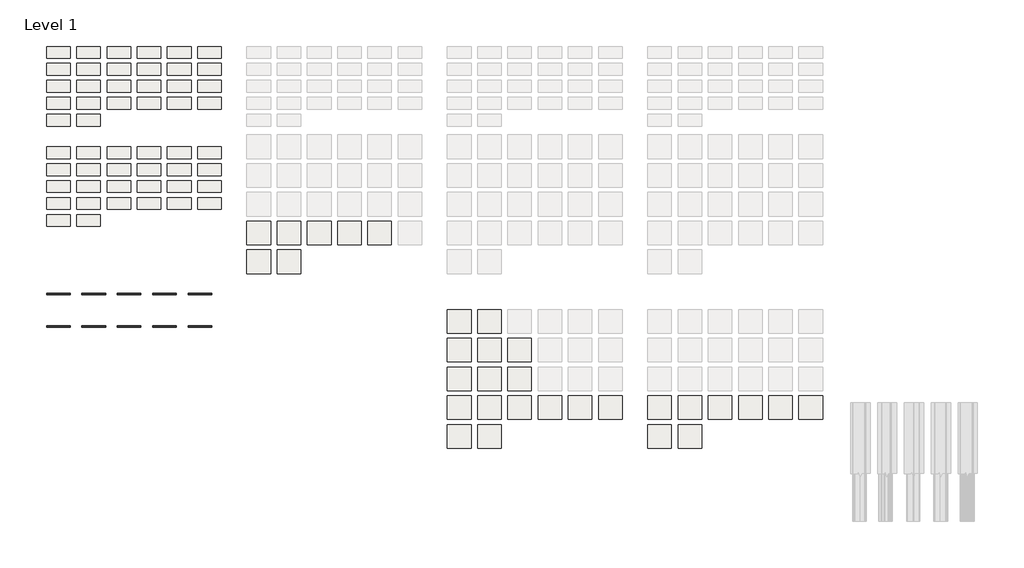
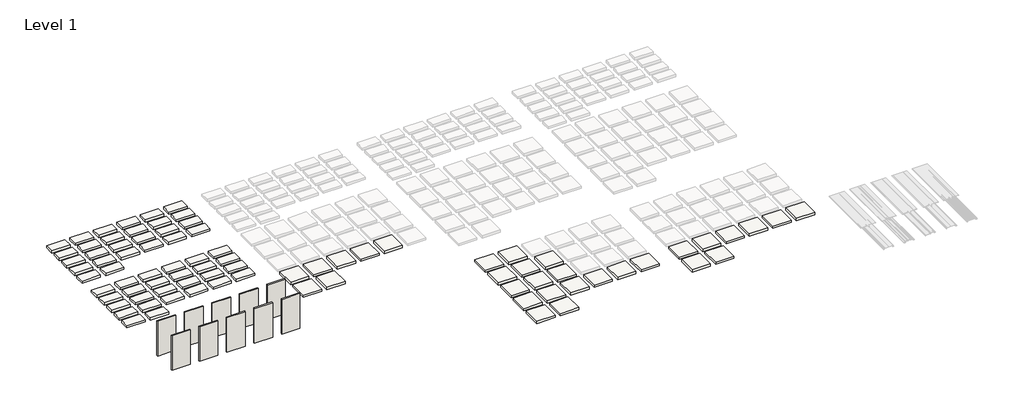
# One storey, part 1 of 3: 83 slabs, 10 walls.
"""IFC4 building model written with IfcOpenShell, lengths in millimetres."""

from ifc_helpers import new_model, si_unit, frame, origin, place, context, project, spatial, polyline, outline, extrude, element, save

model = new_model("IFC4")

# Units and contexts
model_context = context("Model", 3, world=origin())
ifc_project = project(units=[si_unit("LENGTHUNIT", "METRE", prefix="MILLI")], contexts=[model_context])

# Site, building, storey
site = spatial("IfcSite", under=ifc_project)
building = spatial("IfcBuilding", under=site)
storey = spatial("IfcBuildingStorey", under=building, Name="Level 1", Elevation=19.05)

# Slabs
placement = place(None, origin())
element("IfcSlab", 1, ObjectType="AEP Span Material Sample", at=placement, inside=storey, context=model_context, shape_type="SweptSolid", body=[
    extrude(outline(polyline([(-4322.6576517, 8327.6021167), (-4932.2576517, 8327.6021167), (-4932.2576517, 8632.4021167), (-4322.6576517, 8632.4021167), (-4322.6576517, 8327.6021167)])), frame((0.0, 0.0, -60.325), z_axis=(0.0, 0.0, 1.0), x_axis=(1.0, 0.0, 0.0)), (0.0, 0.0, 1.0), 79.375),
])
element("IfcSlab", 2, ObjectType="AEP Span Material Sample", at=placement, inside=storey, context=model_context, shape_type="SweptSolid", body=[
    extrude(outline(polyline([(-3541.6076517, 8327.6021167), (-4151.2076517, 8327.6021167), (-4151.2076517, 8632.4021167), (-3541.6076517, 8632.4021167), (-3541.6076517, 8327.6021167)])), frame((0.0, 0.0, -60.325), z_axis=(0.0, 0.0, 1.0), x_axis=(1.0, 0.0, 0.0)), (0.0, 0.0, 1.0), 79.375),
])
element("IfcSlab", 3, ObjectType="AEP Span Material Sample", at=placement, inside=storey, context=model_context, shape_type="SweptSolid", body=[
    extrude(outline(polyline([(-2760.5576517, 8327.6021167), (-3370.1576517, 8327.6021167), (-3370.1576517, 8632.4021167), (-2760.5576517, 8632.4021167), (-2760.5576517, 8327.6021167)])), frame((0.0, 0.0, -60.325), z_axis=(0.0, 0.0, 1.0), x_axis=(1.0, 0.0, 0.0)), (0.0, 0.0, 1.0), 79.375),
])
element("IfcSlab", 4, ObjectType="AEP Span Material Sample", at=placement, inside=storey, context=model_context, shape_type="SweptSolid", body=[
    extrude(outline(polyline([(-1979.5076517, 8327.6021167), (-2589.1076517, 8327.6021167), (-2589.1076517, 8632.4021167), (-1979.5076517, 8632.4021167), (-1979.5076517, 8327.6021167)])), frame((0.0, 0.0, -60.325), z_axis=(0.0, 0.0, 1.0), x_axis=(1.0, 0.0, 0.0)), (0.0, 0.0, 1.0), 79.375),
])
element("IfcSlab", 5, ObjectType="AEP Span Material Sample", at=placement, inside=storey, context=model_context, shape_type="SweptSolid", body=[
    extrude(outline(polyline([(-1198.4576517, 8327.6021167), (-1808.0576517, 8327.6021167), (-1808.0576517, 8632.4021167), (-1198.4576517, 8632.4021167), (-1198.4576517, 8327.6021167)])), frame((0.0, 0.0, -60.325), z_axis=(0.0, 0.0, 1.0), x_axis=(1.0, 0.0, 0.0)), (0.0, 0.0, 1.0), 79.375),
])
element("IfcSlab", 6, ObjectType="AEP Span Material Sample", at=placement, inside=storey, context=model_context, shape_type="SweptSolid", body=[
    extrude(outline(polyline([(-417.4076517, 8327.6021167), (-1027.0076517, 8327.6021167), (-1027.0076517, 8632.4021167), (-417.4076517, 8632.4021167), (-417.4076517, 8327.6021167)])), frame((0.0, 0.0, -60.325), z_axis=(0.0, 0.0, 1.0), x_axis=(1.0, 0.0, 0.0)), (0.0, 0.0, 1.0), 79.375),
])
element("IfcSlab", 7, ObjectType="AEP Span Material Sample", at=placement, inside=storey, context=model_context, shape_type="SweptSolid", body=[
    extrude(outline(polyline([(-4322.6576517, 7889.4521167), (-4932.2576517, 7889.4521167), (-4932.2576517, 8194.2521167), (-4322.6576517, 8194.2521167), (-4322.6576517, 7889.4521167)])), frame((0.0, 0.0, -60.325), z_axis=(0.0, 0.0, 1.0), x_axis=(1.0, 0.0, 0.0)), (0.0, 0.0, 1.0), 79.375),
])
element("IfcSlab", 8, ObjectType="AEP Span Material Sample", at=placement, inside=storey, context=model_context, shape_type="SweptSolid", body=[
    extrude(outline(polyline([(-3541.6076517, 7889.4521167), (-4151.2076517, 7889.4521167), (-4151.2076517, 8194.2521167), (-3541.6076517, 8194.2521167), (-3541.6076517, 7889.4521167)])), frame((0.0, 0.0, -60.325), z_axis=(0.0, 0.0, 1.0), x_axis=(1.0, 0.0, 0.0)), (0.0, 0.0, 1.0), 79.375),
])
element("IfcSlab", 9, ObjectType="AEP Span Material Sample", at=placement, inside=storey, context=model_context, shape_type="SweptSolid", body=[
    extrude(outline(polyline([(-2760.5576517, 7889.4521167), (-3370.1576517, 7889.4521167), (-3370.1576517, 8194.2521167), (-2760.5576517, 8194.2521167), (-2760.5576517, 7889.4521167)])), frame((0.0, 0.0, -60.325), z_axis=(0.0, 0.0, 1.0), x_axis=(1.0, 0.0, 0.0)), (0.0, 0.0, 1.0), 79.375),
])
element("IfcSlab", 10, ObjectType="AEP Span Material Sample", at=placement, inside=storey, context=model_context, shape_type="SweptSolid", body=[
    extrude(outline(polyline([(-1979.5076517, 7889.4521167), (-2589.1076517, 7889.4521167), (-2589.1076517, 8194.2521167), (-1979.5076517, 8194.2521167), (-1979.5076517, 7889.4521167)])), frame((0.0, 0.0, -60.325), z_axis=(0.0, 0.0, 1.0), x_axis=(1.0, 0.0, 0.0)), (0.0, 0.0, 1.0), 79.375),
])
element("IfcSlab", 11, ObjectType="AEP Span Material Sample", at=placement, inside=storey, context=model_context, shape_type="SweptSolid", body=[
    extrude(outline(polyline([(-1198.4576517, 7889.4521167), (-1808.0576517, 7889.4521167), (-1808.0576517, 8194.2521167), (-1198.4576517, 8194.2521167), (-1198.4576517, 7889.4521167)])), frame((0.0, 0.0, -60.325), z_axis=(0.0, 0.0, 1.0), x_axis=(1.0, 0.0, 0.0)), (0.0, 0.0, 1.0), 79.375),
])
element("IfcSlab", 12, ObjectType="AEP Span Material Sample", at=placement, inside=storey, context=model_context, shape_type="SweptSolid", body=[
    extrude(outline(polyline([(-417.4076517, 7889.4521167), (-1027.0076517, 7889.4521167), (-1027.0076517, 8194.2521167), (-417.4076517, 8194.2521167), (-417.4076517, 7889.4521167)])), frame((0.0, 0.0, -60.325), z_axis=(0.0, 0.0, 1.0), x_axis=(1.0, 0.0, 0.0)), (0.0, 0.0, 1.0), 79.375),
])
element("IfcSlab", 13, ObjectType="AEP Span Material Sample", at=placement, inside=storey, context=model_context, shape_type="SweptSolid", body=[
    extrude(outline(polyline([(-4322.6576517, 7451.3021167), (-4932.2576517, 7451.3021167), (-4932.2576517, 7756.1021167), (-4322.6576517, 7756.1021167), (-4322.6576517, 7451.3021167)])), frame((0.0, 0.0, -60.325), z_axis=(0.0, 0.0, 1.0), x_axis=(1.0, 0.0, 0.0)), (0.0, 0.0, 1.0), 79.375),
])
element("IfcSlab", 14, ObjectType="AEP Span Material Sample", at=placement, inside=storey, context=model_context, shape_type="SweptSolid", body=[
    extrude(outline(polyline([(-3541.6076517, 7451.3021167), (-4151.2076517, 7451.3021167), (-4151.2076517, 7756.1021167), (-3541.6076517, 7756.1021167), (-3541.6076517, 7451.3021167)])), frame((0.0, 0.0, -60.325), z_axis=(0.0, 0.0, 1.0), x_axis=(1.0, 0.0, 0.0)), (0.0, 0.0, 1.0), 79.375),
])
element("IfcSlab", 15, ObjectType="AEP Span Material Sample", at=placement, inside=storey, context=model_context, shape_type="SweptSolid", body=[
    extrude(outline(polyline([(-2760.5576517, 7451.3021167), (-3370.1576517, 7451.3021167), (-3370.1576517, 7756.1021167), (-2760.5576517, 7756.1021167), (-2760.5576517, 7451.3021167)])), frame((0.0, 0.0, -60.325), z_axis=(0.0, 0.0, 1.0), x_axis=(1.0, 0.0, 0.0)), (0.0, 0.0, 1.0), 79.375),
])
element("IfcSlab", 16, ObjectType="AEP Span Material Sample", at=placement, inside=storey, context=model_context, shape_type="SweptSolid", body=[
    extrude(outline(polyline([(-1979.5076517, 7451.3021167), (-2589.1076517, 7451.3021167), (-2589.1076517, 7756.1021167), (-1979.5076517, 7756.1021167), (-1979.5076517, 7451.3021167)])), frame((0.0, 0.0, -60.325), z_axis=(0.0, 0.0, 1.0), x_axis=(1.0, 0.0, 0.0)), (0.0, 0.0, 1.0), 79.375),
])
element("IfcSlab", 17, ObjectType="AEP Span Material Sample", at=placement, inside=storey, context=model_context, shape_type="SweptSolid", body=[
    extrude(outline(polyline([(-1198.4576517, 7451.3021167), (-1808.0576517, 7451.3021167), (-1808.0576517, 7756.1021167), (-1198.4576517, 7756.1021167), (-1198.4576517, 7451.3021167)])), frame((0.0, 0.0, -60.325), z_axis=(0.0, 0.0, 1.0), x_axis=(1.0, 0.0, 0.0)), (0.0, 0.0, 1.0), 79.375),
])
element("IfcSlab", 18, ObjectType="AEP Span Material Sample", at=placement, inside=storey, context=model_context, shape_type="SweptSolid", body=[
    extrude(outline(polyline([(-417.4076517, 7451.3021167), (-1027.0076517, 7451.3021167), (-1027.0076517, 7756.1021167), (-417.4076517, 7756.1021167), (-417.4076517, 7451.3021167)])), frame((0.0, 0.0, -60.325), z_axis=(0.0, 0.0, 1.0), x_axis=(1.0, 0.0, 0.0)), (0.0, 0.0, 1.0), 79.375),
])
element("IfcSlab", 19, ObjectType="AEP Span Material Sample", at=placement, inside=storey, context=model_context, shape_type="SweptSolid", body=[
    extrude(outline(polyline([(-4322.6576517, 7013.1521167), (-4932.2576517, 7013.1521167), (-4932.2576517, 7317.9521167), (-4322.6576517, 7317.9521167), (-4322.6576517, 7013.1521167)])), frame((0.0, 0.0, -60.325), z_axis=(0.0, 0.0, 1.0), x_axis=(1.0, 0.0, 0.0)), (0.0, 0.0, 1.0), 79.375),
])
element("IfcSlab", 20, ObjectType="AEP Span Material Sample", at=placement, inside=storey, context=model_context, shape_type="SweptSolid", body=[
    extrude(outline(polyline([(-3541.6076517, 7013.1521167), (-4151.2076517, 7013.1521167), (-4151.2076517, 7317.9521167), (-3541.6076517, 7317.9521167), (-3541.6076517, 7013.1521167)])), frame((0.0, 0.0, -60.325), z_axis=(0.0, 0.0, 1.0), x_axis=(1.0, 0.0, 0.0)), (0.0, 0.0, 1.0), 79.375),
])
element("IfcSlab", 21, ObjectType="AEP Span Material Sample", at=placement, inside=storey, context=model_context, shape_type="SweptSolid", body=[
    extrude(outline(polyline([(-2760.5576517, 7013.1521167), (-3370.1576517, 7013.1521167), (-3370.1576517, 7317.9521167), (-2760.5576517, 7317.9521167), (-2760.5576517, 7013.1521167)])), frame((0.0, 0.0, -60.325), z_axis=(0.0, 0.0, 1.0), x_axis=(1.0, 0.0, 0.0)), (0.0, 0.0, 1.0), 79.375),
])
element("IfcSlab", 22, ObjectType="AEP Span Material Sample", at=placement, inside=storey, context=model_context, shape_type="SweptSolid", body=[
    extrude(outline(polyline([(-1979.5076517, 7013.1521167), (-2589.1076517, 7013.1521167), (-2589.1076517, 7317.9521167), (-1979.5076517, 7317.9521167), (-1979.5076517, 7013.1521167)])), frame((0.0, 0.0, -60.325), z_axis=(0.0, 0.0, 1.0), x_axis=(1.0, 0.0, 0.0)), (0.0, 0.0, 1.0), 79.375),
])
element("IfcSlab", 23, ObjectType="AEP Span Material Sample", at=placement, inside=storey, context=model_context, shape_type="SweptSolid", body=[
    extrude(outline(polyline([(-1198.4576517, 7013.1521167), (-1808.0576517, 7013.1521167), (-1808.0576517, 7317.9521167), (-1198.4576517, 7317.9521167), (-1198.4576517, 7013.1521167)])), frame((0.0, 0.0, -60.325), z_axis=(0.0, 0.0, 1.0), x_axis=(1.0, 0.0, 0.0)), (0.0, 0.0, 1.0), 79.375),
])
element("IfcSlab", 24, ObjectType="AEP Span Material Sample", at=placement, inside=storey, context=model_context, shape_type="SweptSolid", body=[
    extrude(outline(polyline([(-417.4076517, 7013.1521167), (-1027.0076517, 7013.1521167), (-1027.0076517, 7317.9521167), (-417.4076517, 7317.9521167), (-417.4076517, 7013.1521167)])), frame((0.0, 0.0, -60.325), z_axis=(0.0, 0.0, 1.0), x_axis=(1.0, 0.0, 0.0)), (0.0, 0.0, 1.0), 79.375),
])
element("IfcSlab", 25, ObjectType="AEP Span Material Sample", at=placement, inside=storey, context=model_context, shape_type="SweptSolid", body=[
    extrude(outline(polyline([(-4322.6576517, 6575.0021167), (-4932.2576517, 6575.0021167), (-4932.2576517, 6879.8021167), (-4322.6576517, 6879.8021167), (-4322.6576517, 6575.0021167)])), frame((0.0, 0.0, -60.325), z_axis=(0.0, 0.0, 1.0), x_axis=(1.0, 0.0, 0.0)), (0.0, 0.0, 1.0), 79.375),
])
element("IfcSlab", 26, ObjectType="AEP Span Material Sample", at=placement, inside=storey, context=model_context, shape_type="SweptSolid", body=[
    extrude(outline(polyline([(-3541.6076517, 6575.0021167), (-4151.2076517, 6575.0021167), (-4151.2076517, 6879.8021167), (-3541.6076517, 6879.8021167), (-3541.6076517, 6575.0021167)])), frame((0.0, 0.0, -60.325), z_axis=(0.0, 0.0, 1.0), x_axis=(1.0, 0.0, 0.0)), (0.0, 0.0, 1.0), 79.375),
])
element("IfcSlab", 27, ObjectType="AEP Span Material Sample", at=placement, inside=storey, context=model_context, shape_type="SweptSolid", body=[
    extrude(outline(polyline([(-4322.6576517, 5736.8021167), (-4932.2576517, 5736.8021167), (-4932.2576517, 6041.6021167), (-4322.6576517, 6041.6021167), (-4322.6576517, 5736.8021167)])), frame((0.0, 0.0, -60.325), z_axis=(0.0, 0.0, 1.0), x_axis=(1.0, 0.0, 0.0)), (0.0, 0.0, 1.0), 79.375),
])
element("IfcSlab", 28, ObjectType="AEP Span Material Sample", at=placement, inside=storey, context=model_context, shape_type="SweptSolid", body=[
    extrude(outline(polyline([(-3541.6076517, 5736.8021167), (-4151.2076517, 5736.8021167), (-4151.2076517, 6041.6021167), (-3541.6076517, 6041.6021167), (-3541.6076517, 5736.8021167)])), frame((0.0, 0.0, -60.325), z_axis=(0.0, 0.0, 1.0), x_axis=(1.0, 0.0, 0.0)), (0.0, 0.0, 1.0), 79.375),
])
element("IfcSlab", 29, ObjectType="AEP Span Material Sample", at=placement, inside=storey, context=model_context, shape_type="SweptSolid", body=[
    extrude(outline(polyline([(-2760.5576517, 5736.8021167), (-3370.1576517, 5736.8021167), (-3370.1576517, 6041.6021167), (-2760.5576517, 6041.6021167), (-2760.5576517, 5736.8021167)])), frame((0.0, 0.0, -60.325), z_axis=(0.0, 0.0, 1.0), x_axis=(1.0, 0.0, 0.0)), (0.0, 0.0, 1.0), 79.375),
])
element("IfcSlab", 30, ObjectType="AEP Span Material Sample", at=placement, inside=storey, context=model_context, shape_type="SweptSolid", body=[
    extrude(outline(polyline([(-1979.5076517, 5736.8021167), (-2589.1076517, 5736.8021167), (-2589.1076517, 6041.6021167), (-1979.5076517, 6041.6021167), (-1979.5076517, 5736.8021167)])), frame((0.0, 0.0, -60.325), z_axis=(0.0, 0.0, 1.0), x_axis=(1.0, 0.0, 0.0)), (0.0, 0.0, 1.0), 79.375),
])
element("IfcSlab", 31, ObjectType="AEP Span Material Sample", at=placement, inside=storey, context=model_context, shape_type="SweptSolid", body=[
    extrude(outline(polyline([(-1198.4576517, 5736.8021167), (-1808.0576517, 5736.8021167), (-1808.0576517, 6041.6021167), (-1198.4576517, 6041.6021167), (-1198.4576517, 5736.8021167)])), frame((0.0, 0.0, -60.325), z_axis=(0.0, 0.0, 1.0), x_axis=(1.0, 0.0, 0.0)), (0.0, 0.0, 1.0), 79.375),
])
element("IfcSlab", 32, ObjectType="AEP Span Material Sample", at=placement, inside=storey, context=model_context, shape_type="SweptSolid", body=[
    extrude(outline(polyline([(-417.4076517, 5736.8021167), (-1027.0076517, 5736.8021167), (-1027.0076517, 6041.6021167), (-417.4076517, 6041.6021167), (-417.4076517, 5736.8021167)])), frame((0.0, 0.0, -60.325), z_axis=(0.0, 0.0, 1.0), x_axis=(1.0, 0.0, 0.0)), (0.0, 0.0, 1.0), 79.375),
])
element("IfcSlab", 33, ObjectType="AEP Span Material Sample", at=placement, inside=storey, context=model_context, shape_type="SweptSolid", body=[
    extrude(outline(polyline([(-4322.6576517, 5298.6521167), (-4932.2576517, 5298.6521167), (-4932.2576517, 5603.4521167), (-4322.6576517, 5603.4521167), (-4322.6576517, 5298.6521167)])), frame((0.0, 0.0, -60.325), z_axis=(0.0, 0.0, 1.0), x_axis=(1.0, 0.0, 0.0)), (0.0, 0.0, 1.0), 79.375),
])
element("IfcSlab", 34, ObjectType="AEP Span Material Sample", at=placement, inside=storey, context=model_context, shape_type="SweptSolid", body=[
    extrude(outline(polyline([(-3541.6076517, 5298.6521167), (-4151.2076517, 5298.6521167), (-4151.2076517, 5603.4521167), (-3541.6076517, 5603.4521167), (-3541.6076517, 5298.6521167)])), frame((0.0, 0.0, -60.325), z_axis=(0.0, 0.0, 1.0), x_axis=(1.0, 0.0, 0.0)), (0.0, 0.0, 1.0), 79.375),
])
element("IfcSlab", 35, ObjectType="AEP Span Material Sample", at=placement, inside=storey, context=model_context, shape_type="SweptSolid", body=[
    extrude(outline(polyline([(-2760.5576517, 5298.6521167), (-3370.1576517, 5298.6521167), (-3370.1576517, 5603.4521167), (-2760.5576517, 5603.4521167), (-2760.5576517, 5298.6521167)])), frame((0.0, 0.0, -60.325), z_axis=(0.0, 0.0, 1.0), x_axis=(1.0, 0.0, 0.0)), (0.0, 0.0, 1.0), 79.375),
])
element("IfcSlab", 36, ObjectType="AEP Span Material Sample", at=placement, inside=storey, context=model_context, shape_type="SweptSolid", body=[
    extrude(outline(polyline([(-1979.5076517, 5298.6521167), (-2589.1076517, 5298.6521167), (-2589.1076517, 5603.4521167), (-1979.5076517, 5603.4521167), (-1979.5076517, 5298.6521167)])), frame((0.0, 0.0, -60.325), z_axis=(0.0, 0.0, 1.0), x_axis=(1.0, 0.0, 0.0)), (0.0, 0.0, 1.0), 79.375),
])
element("IfcSlab", 37, ObjectType="AEP Span Material Sample", at=placement, inside=storey, context=model_context, shape_type="SweptSolid", body=[
    extrude(outline(polyline([(-1198.4576517, 5298.6521167), (-1808.0576517, 5298.6521167), (-1808.0576517, 5603.4521167), (-1198.4576517, 5603.4521167), (-1198.4576517, 5298.6521167)])), frame((0.0, 0.0, -60.325), z_axis=(0.0, 0.0, 1.0), x_axis=(1.0, 0.0, 0.0)), (0.0, 0.0, 1.0), 79.375),
])
element("IfcSlab", 38, ObjectType="AEP Span Material Sample", at=placement, inside=storey, context=model_context, shape_type="SweptSolid", body=[
    extrude(outline(polyline([(-417.4076517, 5298.6521167), (-1027.0076517, 5298.6521167), (-1027.0076517, 5603.4521167), (-417.4076517, 5603.4521167), (-417.4076517, 5298.6521167)])), frame((0.0, 0.0, -60.325), z_axis=(0.0, 0.0, 1.0), x_axis=(1.0, 0.0, 0.0)), (0.0, 0.0, 1.0), 79.375),
])
element("IfcSlab", 39, ObjectType="AEP Span Material Sample", at=placement, inside=storey, context=model_context, shape_type="SweptSolid", body=[
    extrude(outline(polyline([(-4322.6576517, 4860.5021167), (-4932.2576517, 4860.5021167), (-4932.2576517, 5165.3021167), (-4322.6576517, 5165.3021167), (-4322.6576517, 4860.5021167)])), frame((0.0, 0.0, -60.325), z_axis=(0.0, 0.0, 1.0), x_axis=(1.0, 0.0, 0.0)), (0.0, 0.0, 1.0), 79.375),
])
element("IfcSlab", 40, ObjectType="AEP Span Material Sample", at=placement, inside=storey, context=model_context, shape_type="SweptSolid", body=[
    extrude(outline(polyline([(-3541.6076517, 4860.5021167), (-4151.2076517, 4860.5021167), (-4151.2076517, 5165.3021167), (-3541.6076517, 5165.3021167), (-3541.6076517, 4860.5021167)])), frame((0.0, 0.0, -60.325), z_axis=(0.0, 0.0, 1.0), x_axis=(1.0, 0.0, 0.0)), (0.0, 0.0, 1.0), 79.375),
])
element("IfcSlab", 41, ObjectType="AEP Span Material Sample", at=placement, inside=storey, context=model_context, shape_type="SweptSolid", body=[
    extrude(outline(polyline([(-2760.5576517, 4860.5021167), (-3370.1576517, 4860.5021167), (-3370.1576517, 5165.3021167), (-2760.5576517, 5165.3021167), (-2760.5576517, 4860.5021167)])), frame((0.0, 0.0, -60.325), z_axis=(0.0, 0.0, 1.0), x_axis=(1.0, 0.0, 0.0)), (0.0, 0.0, 1.0), 79.375),
])
element("IfcSlab", 42, ObjectType="AEP Span Material Sample", at=placement, inside=storey, context=model_context, shape_type="SweptSolid", body=[
    extrude(outline(polyline([(-1979.5076517, 4860.5021167), (-2589.1076517, 4860.5021167), (-2589.1076517, 5165.3021167), (-1979.5076517, 5165.3021167), (-1979.5076517, 4860.5021167)])), frame((0.0, 0.0, -60.325), z_axis=(0.0, 0.0, 1.0), x_axis=(1.0, 0.0, 0.0)), (0.0, 0.0, 1.0), 79.375),
])
element("IfcSlab", 43, ObjectType="AEP Span Material Sample", at=placement, inside=storey, context=model_context, shape_type="SweptSolid", body=[
    extrude(outline(polyline([(-1198.4576517, 4860.5021167), (-1808.0576517, 4860.5021167), (-1808.0576517, 5165.3021167), (-1198.4576517, 5165.3021167), (-1198.4576517, 4860.5021167)])), frame((0.0, 0.0, -60.325), z_axis=(0.0, 0.0, 1.0), x_axis=(1.0, 0.0, 0.0)), (0.0, 0.0, 1.0), 79.375),
])
element("IfcSlab", 44, ObjectType="AEP Span Material Sample", at=placement, inside=storey, context=model_context, shape_type="SweptSolid", body=[
    extrude(outline(polyline([(-417.4076517, 4860.5021167), (-1027.0076517, 4860.5021167), (-1027.0076517, 5165.3021167), (-417.4076517, 5165.3021167), (-417.4076517, 4860.5021167)])), frame((0.0, 0.0, -60.325), z_axis=(0.0, 0.0, 1.0), x_axis=(1.0, 0.0, 0.0)), (0.0, 0.0, 1.0), 79.375),
])
element("IfcSlab", 45, ObjectType="AEP Span Material Sample", at=placement, inside=storey, context=model_context, shape_type="SweptSolid", body=[
    extrude(outline(polyline([(-4322.6576517, 4422.3521167), (-4932.2576517, 4422.3521167), (-4932.2576517, 4727.1521167), (-4322.6576517, 4727.1521167), (-4322.6576517, 4422.3521167)])), frame((0.0, 0.0, -60.325), z_axis=(0.0, 0.0, 1.0), x_axis=(1.0, 0.0, 0.0)), (0.0, 0.0, 1.0), 79.375),
])
element("IfcSlab", 46, ObjectType="AEP Span Material Sample", at=placement, inside=storey, context=model_context, shape_type="SweptSolid", body=[
    extrude(outline(polyline([(-3541.6076517, 4422.3521167), (-4151.2076517, 4422.3521167), (-4151.2076517, 4727.1521167), (-3541.6076517, 4727.1521167), (-3541.6076517, 4422.3521167)])), frame((0.0, 0.0, -60.325), z_axis=(0.0, 0.0, 1.0), x_axis=(1.0, 0.0, 0.0)), (0.0, 0.0, 1.0), 79.375),
])
element("IfcSlab", 47, ObjectType="AEP Span Material Sample", at=placement, inside=storey, context=model_context, shape_type="SweptSolid", body=[
    extrude(outline(polyline([(-2760.5576517, 4422.3521167), (-3370.1576517, 4422.3521167), (-3370.1576517, 4727.1521167), (-2760.5576517, 4727.1521167), (-2760.5576517, 4422.3521167)])), frame((0.0, 0.0, -60.325), z_axis=(0.0, 0.0, 1.0), x_axis=(1.0, 0.0, 0.0)), (0.0, 0.0, 1.0), 79.375),
])
element("IfcSlab", 48, ObjectType="AEP Span Material Sample", at=placement, inside=storey, context=model_context, shape_type="SweptSolid", body=[
    extrude(outline(polyline([(-1979.5076517, 4422.3521167), (-2589.1076517, 4422.3521167), (-2589.1076517, 4727.1521167), (-1979.5076517, 4727.1521167), (-1979.5076517, 4422.3521167)])), frame((0.0, 0.0, -60.325), z_axis=(0.0, 0.0, 1.0), x_axis=(1.0, 0.0, 0.0)), (0.0, 0.0, 1.0), 79.375),
])
element("IfcSlab", 49, ObjectType="AEP Span Material Sample", at=placement, inside=storey, context=model_context, shape_type="SweptSolid", body=[
    extrude(outline(polyline([(-1198.4576517, 4422.3521167), (-1808.0576517, 4422.3521167), (-1808.0576517, 4727.1521167), (-1198.4576517, 4727.1521167), (-1198.4576517, 4422.3521167)])), frame((0.0, 0.0, -60.325), z_axis=(0.0, 0.0, 1.0), x_axis=(1.0, 0.0, 0.0)), (0.0, 0.0, 1.0), 79.375),
])
element("IfcSlab", 50, ObjectType="AEP Span Material Sample", at=placement, inside=storey, context=model_context, shape_type="SweptSolid", body=[
    extrude(outline(polyline([(-417.4076517, 4422.3521167), (-1027.0076517, 4422.3521167), (-1027.0076517, 4727.1521167), (-417.4076517, 4727.1521167), (-417.4076517, 4422.3521167)])), frame((0.0, 0.0, -60.325), z_axis=(0.0, 0.0, 1.0), x_axis=(1.0, 0.0, 0.0)), (0.0, 0.0, 1.0), 79.375),
])
element("IfcSlab", 51, ObjectType="AEP Span Material Sample", at=placement, inside=storey, context=model_context, shape_type="SweptSolid", body=[
    extrude(outline(polyline([(-4322.6576517, 3984.2021167), (-4932.2576517, 3984.2021167), (-4932.2576517, 4289.0021167), (-4322.6576517, 4289.0021167), (-4322.6576517, 3984.2021167)])), frame((0.0, 0.0, -60.325), z_axis=(0.0, 0.0, 1.0), x_axis=(1.0, 0.0, 0.0)), (0.0, 0.0, 1.0), 79.375),
])
element("IfcSlab", 52, ObjectType="AEP Span Material Sample", at=placement, inside=storey, context=model_context, shape_type="SweptSolid", body=[
    extrude(outline(polyline([(-3541.6076517, 3984.2021167), (-4151.2076517, 3984.2021167), (-4151.2076517, 4289.0021167), (-3541.6076517, 4289.0021167), (-3541.6076517, 3984.2021167)])), frame((0.0, 0.0, -60.325), z_axis=(0.0, 0.0, 1.0), x_axis=(1.0, 0.0, 0.0)), (0.0, 0.0, 1.0), 79.375),
])
element("IfcSlab", 53, ObjectType="AEP Span Material Sample", at=placement, inside=storey, context=model_context, shape_type="SweptSolid", body=[
    extrude(outline(polyline([(857.9412041, 3507.9521167), (248.3412041, 3507.9521167), (248.3412041, 4117.5521167), (857.9412041, 4117.5521167), (857.9412041, 3507.9521167)])), frame((0.0, 0.0, -60.325), z_axis=(0.0, 0.0, 1.0), x_axis=(1.0, 0.0, 0.0)), (0.0, 0.0, 1.0), 79.375),
])
element("IfcSlab", 54, ObjectType="AEP Span Material Sample", at=placement, inside=storey, context=model_context, shape_type="SweptSolid", body=[
    extrude(outline(polyline([(1638.9912041, 3507.9521167), (1029.3912041, 3507.9521167), (1029.3912041, 4117.5521167), (1638.9912041, 4117.5521167), (1638.9912041, 3507.9521167)])), frame((0.0, 0.0, -60.325), z_axis=(0.0, 0.0, 1.0), x_axis=(1.0, 0.0, 0.0)), (0.0, 0.0, 1.0), 79.375),
])
element("IfcSlab", 55, ObjectType="AEP Span Material Sample", at=placement, inside=storey, context=model_context, shape_type="SweptSolid", body=[
    extrude(outline(polyline([(2420.0412041, 3507.9521167), (1810.4412041, 3507.9521167), (1810.4412041, 4117.5521167), (2420.0412041, 4117.5521167), (2420.0412041, 3507.9521167)])), frame((0.0, 0.0, -60.325), z_axis=(0.0, 0.0, 1.0), x_axis=(1.0, 0.0, 0.0)), (0.0, 0.0, 1.0), 79.375),
])
element("IfcSlab", 56, ObjectType="AEP Span Material Sample", at=placement, inside=storey, context=model_context, shape_type="SweptSolid", body=[
    extrude(outline(polyline([(3201.0912041, 3507.9521167), (2591.4912041, 3507.9521167), (2591.4912041, 4117.5521167), (3201.0912041, 4117.5521167), (3201.0912041, 3507.9521167)])), frame((0.0, 0.0, -60.325), z_axis=(0.0, 0.0, 1.0), x_axis=(1.0, 0.0, 0.0)), (0.0, 0.0, 1.0), 79.375),
])
element("IfcSlab", 57, ObjectType="AEP Span Material Sample", at=placement, inside=storey, context=model_context, shape_type="SweptSolid", body=[
    extrude(outline(polyline([(3982.1412041, 3507.9521167), (3372.5412041, 3507.9521167), (3372.5412041, 4117.5521167), (3982.1412041, 4117.5521167), (3982.1412041, 3507.9521167)])), frame((0.0, 0.0, -60.325), z_axis=(0.0, 0.0, 1.0), x_axis=(1.0, 0.0, 0.0)), (0.0, 0.0, 1.0), 79.375),
])
element("IfcSlab", 58, ObjectType="AEP Span Material Sample", at=placement, inside=storey, context=model_context, shape_type="SweptSolid", body=[
    extrude(outline(polyline([(857.9412041, 2765.0021167), (248.3412041, 2765.0021167), (248.3412041, 3374.6021167), (857.9412041, 3374.6021167), (857.9412041, 2765.0021167)])), frame((0.0, 0.0, -60.325), z_axis=(0.0, 0.0, 1.0), x_axis=(1.0, 0.0, 0.0)), (0.0, 0.0, 1.0), 79.375),
])
element("IfcSlab", 59, ObjectType="AEP Span Material Sample", at=placement, inside=storey, context=model_context, shape_type="SweptSolid", body=[
    extrude(outline(polyline([(1638.9912041, 2765.0021167), (1029.3912041, 2765.0021167), (1029.3912041, 3374.6021167), (1638.9912041, 3374.6021167), (1638.9912041, 2765.0021167)])), frame((0.0, 0.0, -60.325), z_axis=(0.0, 0.0, 1.0), x_axis=(1.0, 0.0, 0.0)), (0.0, 0.0, 1.0), 79.375),
])
element("IfcSlab", 60, ObjectType="AEP Span Material Sample", at=placement, inside=storey, context=model_context, shape_type="SweptSolid", body=[
    extrude(outline(polyline([(11221.1412041, -1006.8978833), (10611.5412041, -1006.8978833), (10611.5412041, -397.2978833), (11221.1412041, -397.2978833), (11221.1412041, -1006.8978833)])), frame((0.0, 0.0, -60.325), z_axis=(0.0, 0.0, 1.0), x_axis=(1.0, 0.0, 0.0)), (0.0, 0.0, 1.0), 79.375),
])
element("IfcSlab", 61, ObjectType="AEP Span Material Sample", at=placement, inside=storey, context=model_context, shape_type="SweptSolid", body=[
    extrude(outline(polyline([(12002.1912041, -1006.8978833), (11392.5912041, -1006.8978833), (11392.5912041, -397.2978833), (12002.1912041, -397.2978833), (12002.1912041, -1006.8978833)])), frame((0.0, 0.0, -60.325), z_axis=(0.0, 0.0, 1.0), x_axis=(1.0, 0.0, 0.0)), (0.0, 0.0, 1.0), 79.375),
])
element("IfcSlab", 62, ObjectType="AEP Span Material Sample", at=placement, inside=storey, context=model_context, shape_type="SweptSolid", body=[
    extrude(outline(polyline([(12783.2412041, -1006.8978833), (12173.6412041, -1006.8978833), (12173.6412041, -397.2978833), (12783.2412041, -397.2978833), (12783.2412041, -1006.8978833)])), frame((0.0, 0.0, -60.325), z_axis=(0.0, 0.0, 1.0), x_axis=(1.0, 0.0, 0.0)), (0.0, 0.0, 1.0), 79.375),
])
element("IfcSlab", 63, ObjectType="AEP Span Material Sample", at=placement, inside=storey, context=model_context, shape_type="SweptSolid", body=[
    extrude(outline(polyline([(13564.2912041, -1006.8978833), (12954.6912041, -1006.8978833), (12954.6912041, -397.2978833), (13564.2912041, -397.2978833), (13564.2912041, -1006.8978833)])), frame((0.0, 0.0, -60.325), z_axis=(0.0, 0.0, 1.0), x_axis=(1.0, 0.0, 0.0)), (0.0, 0.0, 1.0), 79.375),
])
element("IfcSlab", 64, ObjectType="AEP Span Material Sample", at=placement, inside=storey, context=model_context, shape_type="SweptSolid", body=[
    extrude(outline(polyline([(14345.3412041, -1006.8978833), (13735.7412041, -1006.8978833), (13735.7412041, -397.2978833), (14345.3412041, -397.2978833), (14345.3412041, -1006.8978833)])), frame((0.0, 0.0, -60.325), z_axis=(0.0, 0.0, 1.0), x_axis=(1.0, 0.0, 0.0)), (0.0, 0.0, 1.0), 79.375),
])
element("IfcSlab", 65, ObjectType="AEP Span Material Sample", at=placement, inside=storey, context=model_context, shape_type="SweptSolid", body=[
    extrude(outline(polyline([(15126.3912041, -1006.8978833), (14516.7912041, -1006.8978833), (14516.7912041, -397.2978833), (15126.3912041, -397.2978833), (15126.3912041, -1006.8978833)])), frame((0.0, 0.0, -60.325), z_axis=(0.0, 0.0, 1.0), x_axis=(1.0, 0.0, 0.0)), (0.0, 0.0, 1.0), 79.375),
])
element("IfcSlab", 66, ObjectType="AEP Span Material Sample", at=placement, inside=storey, context=model_context, shape_type="SweptSolid", body=[
    extrude(outline(polyline([(11221.1412041, -1749.8478833), (10611.5412041, -1749.8478833), (10611.5412041, -1140.2478833), (11221.1412041, -1140.2478833), (11221.1412041, -1749.8478833)])), frame((0.0, 0.0, -60.325), z_axis=(0.0, 0.0, 1.0), x_axis=(1.0, 0.0, 0.0)), (0.0, 0.0, 1.0), 79.375),
])
element("IfcSlab", 67, ObjectType="AEP Span Material Sample", at=placement, inside=storey, context=model_context, shape_type="SweptSolid", body=[
    extrude(outline(polyline([(12002.1912041, -1749.8478833), (11392.5912041, -1749.8478833), (11392.5912041, -1140.2478833), (12002.1912041, -1140.2478833), (12002.1912041, -1749.8478833)])), frame((0.0, 0.0, -60.325), z_axis=(0.0, 0.0, 1.0), x_axis=(1.0, 0.0, 0.0)), (0.0, 0.0, 1.0), 79.375),
])
element("IfcSlab", 68, ObjectType="AEP Span Material Sample", at=placement, inside=storey, context=model_context, shape_type="SweptSolid", body=[
    extrude(outline(polyline([(6040.5423483, 1221.9521167), (5430.9423483, 1221.9521167), (5430.9423483, 1831.5521167), (6040.5423483, 1831.5521167), (6040.5423483, 1221.9521167)])), frame((0.0, 0.0, -60.325), z_axis=(0.0, 0.0, 1.0), x_axis=(1.0, 0.0, 0.0)), (0.0, 0.0, 1.0), 79.375),
])
element("IfcSlab", 69, ObjectType="AEP Span Material Sample", at=placement, inside=storey, context=model_context, shape_type="SweptSolid", body=[
    extrude(outline(polyline([(6821.5923483, 1221.9521167), (6211.9923483, 1221.9521167), (6211.9923483, 1831.5521167), (6821.5923483, 1831.5521167), (6821.5923483, 1221.9521167)])), frame((0.0, 0.0, -60.325), z_axis=(0.0, 0.0, 1.0), x_axis=(1.0, 0.0, 0.0)), (0.0, 0.0, 1.0), 79.375),
])
element("IfcSlab", 70, ObjectType="AEP Span Material Sample", at=placement, inside=storey, context=model_context, shape_type="SweptSolid", body=[
    extrude(outline(polyline([(6040.5423483, 479.0021167), (5430.9423483, 479.0021167), (5430.9423483, 1088.6021167), (6040.5423483, 1088.6021167), (6040.5423483, 479.0021167)])), frame((0.0, 0.0, -60.325), z_axis=(0.0, 0.0, 1.0), x_axis=(1.0, 0.0, 0.0)), (0.0, 0.0, 1.0), 79.375),
])
element("IfcSlab", 71, ObjectType="AEP Span Material Sample", at=placement, inside=storey, context=model_context, shape_type="SweptSolid", body=[
    extrude(outline(polyline([(6821.5923483, 479.0021167), (6211.9923483, 479.0021167), (6211.9923483, 1088.6021167), (6821.5923483, 1088.6021167), (6821.5923483, 479.0021167)])), frame((0.0, 0.0, -60.325), z_axis=(0.0, 0.0, 1.0), x_axis=(1.0, 0.0, 0.0)), (0.0, 0.0, 1.0), 79.375),
])
element("IfcSlab", 72, ObjectType="AEP Span Material Sample", at=placement, inside=storey, context=model_context, shape_type="SweptSolid", body=[
    extrude(outline(polyline([(7602.6423483, 479.0021167), (6993.0423483, 479.0021167), (6993.0423483, 1088.6021167), (7602.6423483, 1088.6021167), (7602.6423483, 479.0021167)])), frame((0.0, 0.0, -60.325), z_axis=(0.0, 0.0, 1.0), x_axis=(1.0, 0.0, 0.0)), (0.0, 0.0, 1.0), 79.375),
])
element("IfcSlab", 73, ObjectType="AEP Span Material Sample", at=placement, inside=storey, context=model_context, shape_type="SweptSolid", body=[
    extrude(outline(polyline([(6040.5423483, -263.9478833), (5430.9423483, -263.9478833), (5430.9423483, 345.6521167), (6040.5423483, 345.6521167), (6040.5423483, -263.9478833)])), frame((0.0, 0.0, -60.325), z_axis=(0.0, 0.0, 1.0), x_axis=(1.0, 0.0, 0.0)), (0.0, 0.0, 1.0), 79.375),
])
element("IfcSlab", 74, ObjectType="AEP Span Material Sample", at=placement, inside=storey, context=model_context, shape_type="SweptSolid", body=[
    extrude(outline(polyline([(6821.5923483, -263.9478833), (6211.9923483, -263.9478833), (6211.9923483, 345.6521167), (6821.5923483, 345.6521167), (6821.5923483, -263.9478833)])), frame((0.0, 0.0, -60.325), z_axis=(0.0, 0.0, 1.0), x_axis=(1.0, 0.0, 0.0)), (0.0, 0.0, 1.0), 79.375),
])
element("IfcSlab", 75, ObjectType="AEP Span Material Sample", at=placement, inside=storey, context=model_context, shape_type="SweptSolid", body=[
    extrude(outline(polyline([(7602.6423483, -263.9478833), (6993.0423483, -263.9478833), (6993.0423483, 345.6521167), (7602.6423483, 345.6521167), (7602.6423483, -263.9478833)])), frame((0.0, 0.0, -60.325), z_axis=(0.0, 0.0, 1.0), x_axis=(1.0, 0.0, 0.0)), (0.0, 0.0, 1.0), 79.375),
])
element("IfcSlab", 76, ObjectType="AEP Span Material Sample", at=placement, inside=storey, context=model_context, shape_type="SweptSolid", body=[
    extrude(outline(polyline([(6040.5423483, -1006.8978833), (5430.9423483, -1006.8978833), (5430.9423483, -397.2978833), (6040.5423483, -397.2978833), (6040.5423483, -1006.8978833)])), frame((0.0, 0.0, -60.325), z_axis=(0.0, 0.0, 1.0), x_axis=(1.0, 0.0, 0.0)), (0.0, 0.0, 1.0), 79.375),
])
element("IfcSlab", 77, ObjectType="AEP Span Material Sample", at=placement, inside=storey, context=model_context, shape_type="SweptSolid", body=[
    extrude(outline(polyline([(6821.5923483, -1006.8978833), (6211.9923483, -1006.8978833), (6211.9923483, -397.2978833), (6821.5923483, -397.2978833), (6821.5923483, -1006.8978833)])), frame((0.0, 0.0, -60.325), z_axis=(0.0, 0.0, 1.0), x_axis=(1.0, 0.0, 0.0)), (0.0, 0.0, 1.0), 79.375),
])
element("IfcSlab", 78, ObjectType="AEP Span Material Sample", at=placement, inside=storey, context=model_context, shape_type="SweptSolid", body=[
    extrude(outline(polyline([(7602.6423483, -1006.8978833), (6993.0423483, -1006.8978833), (6993.0423483, -397.2978833), (7602.6423483, -397.2978833), (7602.6423483, -1006.8978833)])), frame((0.0, 0.0, -60.325), z_axis=(0.0, 0.0, 1.0), x_axis=(1.0, 0.0, 0.0)), (0.0, 0.0, 1.0), 79.375),
])
element("IfcSlab", 79, ObjectType="AEP Span Material Sample", at=placement, inside=storey, context=model_context, shape_type="SweptSolid", body=[
    extrude(outline(polyline([(8383.6923483, -1006.8978833), (7774.0923483, -1006.8978833), (7774.0923483, -397.2978833), (8383.6923483, -397.2978833), (8383.6923483, -1006.8978833)])), frame((0.0, 0.0, -60.325), z_axis=(0.0, 0.0, 1.0), x_axis=(1.0, 0.0, 0.0)), (0.0, 0.0, 1.0), 79.375),
])
element("IfcSlab", 80, ObjectType="AEP Span Material Sample", at=placement, inside=storey, context=model_context, shape_type="SweptSolid", body=[
    extrude(outline(polyline([(9164.7423483, -1006.8978833), (8555.1423483, -1006.8978833), (8555.1423483, -397.2978833), (9164.7423483, -397.2978833), (9164.7423483, -1006.8978833)])), frame((0.0, 0.0, -60.325), z_axis=(0.0, 0.0, 1.0), x_axis=(1.0, 0.0, 0.0)), (0.0, 0.0, 1.0), 79.375),
])
element("IfcSlab", 81, ObjectType="AEP Span Material Sample", at=placement, inside=storey, context=model_context, shape_type="SweptSolid", body=[
    extrude(outline(polyline([(9945.7923483, -1006.8978833), (9336.1923483, -1006.8978833), (9336.1923483, -397.2978833), (9945.7923483, -397.2978833), (9945.7923483, -1006.8978833)])), frame((0.0, 0.0, -60.325), z_axis=(0.0, 0.0, 1.0), x_axis=(1.0, 0.0, 0.0)), (0.0, 0.0, 1.0), 79.375),
])
element("IfcSlab", 82, ObjectType="AEP Span Material Sample", at=placement, inside=storey, context=model_context, shape_type="SweptSolid", body=[
    extrude(outline(polyline([(6040.5423483, -1749.8478833), (5430.9423483, -1749.8478833), (5430.9423483, -1140.2478833), (6040.5423483, -1140.2478833), (6040.5423483, -1749.8478833)])), frame((0.0, 0.0, -60.325), z_axis=(0.0, 0.0, 1.0), x_axis=(1.0, 0.0, 0.0)), (0.0, 0.0, 1.0), 79.375),
])
element("IfcSlab", 83, ObjectType="AEP Span Material Sample", at=placement, inside=storey, context=model_context, shape_type="SweptSolid", body=[
    extrude(outline(polyline([(6821.5923483, -1749.8478833), (6211.9923483, -1749.8478833), (6211.9923483, -1140.2478833), (6821.5923483, -1140.2478833), (6821.5923483, -1749.8478833)])), frame((0.0, 0.0, -60.325), z_axis=(0.0, 0.0, 1.0), x_axis=(1.0, 0.0, 0.0)), (0.0, 0.0, 1.0), 79.375),
])

# Walls
element("IfcWall", 84, ObjectType="Prestige Series - 1\" Reveal Flat - Horizontal - 20ga", at=placement, inside=storey, context=model_context, shape_type="SweptSolid", body=[
    extrude(outline(polyline([(-2494.8587959, 1375.8487975), (-3104.4587959, 1375.8487975), (-3104.4587959, 1413.9487975), (-2494.8587959, 1413.9487975), (-2494.8587959, 1375.8487975)])), frame((0.0, 0.0, 19.05), z_axis=(0.0, 0.0, 1.0), x_axis=(1.0, 0.0, 0.0)), (0.0, 0.0, 1.0), 1219.2),
])
element("IfcWall", 85, ObjectType="Prestige Series - 1\" Reveal Flat - Vertical - 20ga", at=placement, inside=storey, context=model_context, shape_type="SweptSolid", body=[
    extrude(outline(polyline([(-2494.8587959, 2214.0487975), (-3104.4587959, 2214.0487975), (-3104.4587959, 2252.1487975), (-2494.8587959, 2252.1487975), (-2494.8587959, 2214.0487975)])), frame((0.0, 0.0, 19.05), z_axis=(0.0, 0.0, 1.0), x_axis=(1.0, 0.0, 0.0)), (0.0, 0.0, 1.0), 1219.2),
])
element("IfcWall", 86, ObjectType="Prestige Series - 2\" Reveal - Horizontal - 20ga", at=placement, inside=storey, context=model_context, shape_type="SweptSolid", body=[
    extrude(outline(polyline([(-1580.4587959, 1375.8487975), (-2190.0587959, 1375.8487975), (-2190.0587959, 1413.9487975), (-1580.4587959, 1413.9487975), (-1580.4587959, 1375.8487975)])), frame((0.0, 0.0, 19.05), z_axis=(0.0, 0.0, 1.0), x_axis=(1.0, 0.0, 0.0)), (0.0, 0.0, 1.0), 1219.2),
])
element("IfcWall", 87, ObjectType="Prestige Series - 2\" Reveal - Vertical - 20ga", at=placement, inside=storey, context=model_context, shape_type="SweptSolid", body=[
    extrude(outline(polyline([(-1580.4587959, 2214.0487975), (-2190.0587959, 2214.0487975), (-2190.0587959, 2252.1487975), (-1580.4587959, 2252.1487975), (-1580.4587959, 2214.0487975)])), frame((0.0, 0.0, 19.05), z_axis=(0.0, 0.0, 1.0), x_axis=(1.0, 0.0, 0.0)), (0.0, 0.0, 1.0), 1219.2),
])
element("IfcWall", 88, ObjectType="Prestige Series - 6\" Reveal Flat - Horizontal - 20ga", at=placement, inside=storey, context=model_context, shape_type="SweptSolid", body=[
    extrude(outline(polyline([(-666.0587959, 1375.8487975), (-1275.6587959, 1375.8487975), (-1275.6587959, 1413.9487975), (-666.0587959, 1413.9487975), (-666.0587959, 1375.8487975)])), frame((0.0, 0.0, 19.05), z_axis=(0.0, 0.0, 1.0), x_axis=(1.0, 0.0, 0.0)), (0.0, 0.0, 1.0), 1219.2),
])
element("IfcWall", 89, ObjectType="Prestige Series - 6\" Reveal Flat - Vertical - 20ga", at=placement, inside=storey, context=model_context, shape_type="SweptSolid", body=[
    extrude(outline(polyline([(-666.0587959, 2214.0487975), (-1275.6587959, 2214.0487975), (-1275.6587959, 2252.1487975), (-666.0587959, 2252.1487975), (-666.0587959, 2214.0487975)])), frame((0.0, 0.0, 19.05), z_axis=(0.0, 0.0, 1.0), x_axis=(1.0, 0.0, 0.0)), (0.0, 0.0, 1.0), 1219.2),
])
element("IfcWall", 90, ObjectType="Prestige Series - No Reveal Flat - Horizontal - 20ga", at=placement, inside=storey, context=model_context, shape_type="SweptSolid", body=[
    extrude(outline(polyline([(-4323.6587959, 1375.8487975), (-4933.2587959, 1375.8487975), (-4933.2587959, 1413.9487975), (-4323.6587959, 1413.9487975), (-4323.6587959, 1375.8487975)])), frame((0.0, 0.0, 19.05), z_axis=(0.0, 0.0, 1.0), x_axis=(1.0, 0.0, 0.0)), (0.0, 0.0, 1.0), 1219.2),
])
element("IfcWall", 91, ObjectType="Prestige Series - No Reveal Flat - Vertical - 20ga", at=placement, inside=storey, context=model_context, shape_type="SweptSolid", body=[
    extrude(outline(polyline([(-4323.6587959, 2214.0487975), (-4933.2587959, 2214.0487975), (-4933.2587959, 2252.1487975), (-4323.6587959, 2252.1487975), (-4323.6587959, 2214.0487975)])), frame((0.0, 0.0, 19.05), z_axis=(0.0, 0.0, 1.0), x_axis=(1.0, 0.0, 0.0)), (0.0, 0.0, 1.0), 1219.2),
])
element("IfcWall", 92, ObjectType="Prestige Series - No Reveal Wave - Horizontal - 20ga", at=placement, inside=storey, context=model_context, shape_type="SweptSolid", body=[
    extrude(outline(polyline([(-3409.2587959, 1375.8487975), (-4018.8587959, 1375.8487975), (-4018.8587959, 1413.9487975), (-3409.2587959, 1413.9487975), (-3409.2587959, 1375.8487975)])), frame((0.0, 0.0, 19.05), z_axis=(0.0, 0.0, 1.0), x_axis=(1.0, 0.0, 0.0)), (0.0, 0.0, 1.0), 1219.2),
])
element("IfcWall", 93, ObjectType="Prestige Series - No Reveal Wave - Vertical - 20ga", at=placement, inside=storey, context=model_context, shape_type="SweptSolid", body=[
    extrude(outline(polyline([(-3409.2587959, 2214.0487975), (-4018.8587959, 2214.0487975), (-4018.8587959, 2252.1487975), (-3409.2587959, 2252.1487975), (-3409.2587959, 2214.0487975)])), frame((0.0, 0.0, 19.05), z_axis=(0.0, 0.0, 1.0), x_axis=(1.0, 0.0, 0.0)), (0.0, 0.0, 1.0), 1219.2),
])

save(model, "model.ifc")
